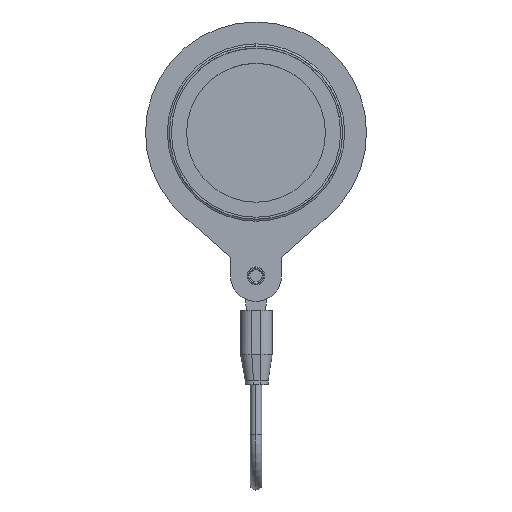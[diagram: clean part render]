
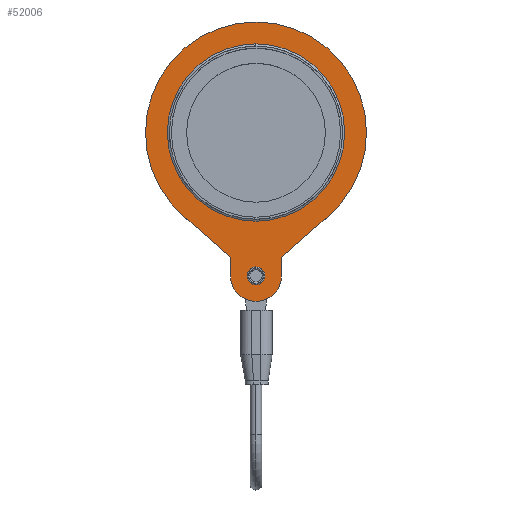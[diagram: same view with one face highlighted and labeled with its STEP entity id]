
A CAD part, top view. The second image highlights one B-rep face of the part: STEP entity #52006.
In plain terms, the highlighted planar face has unit normal (0, 0, 1) as drawn and (0, 0, -1) by its records, which use the part's own axes.
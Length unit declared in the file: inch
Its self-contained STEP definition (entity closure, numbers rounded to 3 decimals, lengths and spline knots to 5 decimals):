
#1645 = DIRECTION ( 'NONE',  ( 1., 0., 0. ) ) ;
#2606 = CARTESIAN_POINT ( 'NONE',  ( 0.06102, -1.16142, -0.01378 ) ) ;
#4008 = ORIENTED_EDGE ( 'NONE', *, *, #23938, .F. ) ;
#4773 = CARTESIAN_POINT ( 'NONE',  ( -0.7185, 0., -0.01378 ) ) ;
#6326 = VERTEX_POINT ( 'NONE', #4773 ) ;
#6380 = CARTESIAN_POINT ( 'NONE',  ( 0., -1.16142, -0.01378 ) ) ;
#6749 = CIRCLE ( 'NONE', #54961, 0.89567 ) ;
#8165 = DIRECTION ( 'NONE',  ( 1., 0., 0. ) ) ;
#8436 = CARTESIAN_POINT ( 'NONE',  ( 0., -1.16142, -0.01378 ) ) ;
#8928 = VERTEX_POINT ( 'NONE', #56661 ) ;
#8954 = VERTEX_POINT ( 'NONE', #26486 ) ;
#11923 = FACE_OUTER_BOUND ( 'NONE', #13826, .T. ) ;
#13392 = VERTEX_POINT ( 'NONE', #60057 ) ;
#13826 = EDGE_LOOP ( 'NONE', ( #4008, #37448, #47544, #56180, #15834, #18620, #36946, #36252 ) ) ;
#13850 = EDGE_CURVE ( 'NONE', #59840, #66315, #6749, .T. ) ;
#13901 = VECTOR ( 'NONE', #45784, 39.37008 ) ;
#14133 = DIRECTION ( 'NONE',  ( 0., 0., 1. ) ) ;
#14151 = VECTOR ( 'NONE', #38891, 39.37008 ) ;
#14472 = CARTESIAN_POINT ( 'NONE',  ( 0., 0., -0.01378 ) ) ;
#14669 = EDGE_CURVE ( 'NONE', #13392, #27325, #23750, .T. ) ;
#15776 = ORIENTED_EDGE ( 'NONE', *, *, #20397, .T. ) ;
#15834 = ORIENTED_EDGE ( 'NONE', *, *, #33174, .F. ) ;
#16261 = FACE_BOUND ( 'NONE', #37331, .T. ) ;
#16741 = CARTESIAN_POINT ( 'NONE',  ( 0.20669, -1.01181, -0.01378 ) ) ;
#16777 = EDGE_CURVE ( 'NONE', #6326, #33106, #44525, .T. ) ;
#16847 = EDGE_CURVE ( 'NONE', #27325, #8928, #28095, .T. ) ;
#18620 = ORIENTED_EDGE ( 'NONE', *, *, #51674, .F. ) ;
#19537 = DIRECTION ( 'NONE',  ( 0., 0., 1. ) ) ;
#20344 = AXIS2_PLACEMENT_3D ( 'NONE', #47170, #32754, #58218 ) ;
#20397 = EDGE_CURVE ( 'NONE', #8954, #49557, #26875, .T. ) ;
#22796 = CARTESIAN_POINT ( 'NONE',  ( -0.20669, -1.01181, -0.01378 ) ) ;
#23598 = AXIS2_PLACEMENT_3D ( 'NONE', #32345, #43043, #52798 ) ;
#23750 = LINE ( 'NONE', #38516, #56039 ) ;
#23938 = EDGE_CURVE ( 'NONE', #46847, #13392, #32526, .T. ) ;
#25890 = CARTESIAN_POINT ( 'NONE',  ( -0.5923, -0.67186, -0.01378 ) ) ;
#26028 = CIRCLE ( 'NONE', #52816, 0.89567 ) ;
#26408 = EDGE_CURVE ( 'NONE', #66315, #35524, #28815, .T. ) ;
#26486 = CARTESIAN_POINT ( 'NONE',  ( -0.06102, -1.16142, -0.01378 ) ) ;
#26875 = CIRCLE ( 'NONE', #64367, 0.06102 ) ;
#27027 = CARTESIAN_POINT ( 'NONE',  ( 0.89567, 0., -0.01378 ) ) ;
#27135 = CARTESIAN_POINT ( 'NONE',  ( 0., -1.16142, -0.01378 ) ) ;
#27312 = FACE_BOUND ( 'NONE', #61827, .T. ) ;
#27325 = VERTEX_POINT ( 'NONE', #16741 ) ;
#28095 = LINE ( 'NONE', #33447, #30620 ) ;
#28815 = LINE ( 'NONE', #22796, #14151 ) ;
#28872 = DIRECTION ( 'NONE',  ( 0., 0., 1. ) ) ;
#29441 = DIRECTION ( 'NONE',  ( 1., 0., 0. ) ) ;
#30620 = VECTOR ( 'NONE', #55805, 39.37008 ) ;
#31695 = PLANE ( 'NONE',  #23598 ) ;
#31840 = DIRECTION ( 'NONE',  ( 0., 0., 1. ) ) ;
#32345 = CARTESIAN_POINT ( 'NONE',  ( 0., -1.16142, -0.01378 ) ) ;
#32453 = CARTESIAN_POINT ( 'NONE',  ( 0.7185, 0., -0.01378 ) ) ;
#32526 = CIRCLE ( 'NONE', #55030, 0.20669 ) ;
#32544 = CARTESIAN_POINT ( 'NONE',  ( -0.20669, -1.16142, -0.01378 ) ) ;
#32754 = DIRECTION ( 'NONE',  ( 0., 0., 1. ) ) ;
#33106 = VERTEX_POINT ( 'NONE', #32453 ) ;
#33174 = EDGE_CURVE ( 'NONE', #47458, #59840, #26028, .T. ) ;
#33447 = CARTESIAN_POINT ( 'NONE',  ( 0.20669, -1.01181, -0.01378 ) ) ;
#34468 = DIRECTION ( 'NONE',  ( 0., 1., 0. ) ) ;
#35524 = VERTEX_POINT ( 'NONE', #42947 ) ;
#36252 = ORIENTED_EDGE ( 'NONE', *, *, #14669, .F. ) ;
#36946 = ORIENTED_EDGE ( 'NONE', *, *, #16847, .F. ) ;
#37153 = CARTESIAN_POINT ( 'NONE',  ( 0., 0., -0.01378 ) ) ;
#37331 = EDGE_LOOP ( 'NONE', ( #60146, #63726 ) ) ;
#37448 = ORIENTED_EDGE ( 'NONE', *, *, #53546, .F. ) ;
#38149 = DIRECTION ( 'NONE',  ( 1., 0., 0. ) ) ;
#38476 = DIRECTION ( 'NONE',  ( 0., 0., 1. ) ) ;
#38516 = CARTESIAN_POINT ( 'NONE',  ( 0.20669, -1.01181, -0.01378 ) ) ;
#38891 = DIRECTION ( 'NONE',  ( 0.75, -0.661, 0. ) ) ;
#39190 = CARTESIAN_POINT ( 'NONE',  ( 0., 0., -0.01378 ) ) ;
#40122 = LINE ( 'NONE', #45128, #13901 ) ;
#40689 = CIRCLE ( 'NONE', #20344, 0.89567 ) ;
#42042 = CARTESIAN_POINT ( 'NONE',  ( -0.89567, 0., -0.01378 ) ) ;
#42443 = ORIENTED_EDGE ( 'NONE', *, *, #44916, .T. ) ;
#42947 = CARTESIAN_POINT ( 'NONE',  ( -0.20669, -1.01181, -0.01378 ) ) ;
#43043 = DIRECTION ( 'NONE',  ( 0., 0., 1. ) ) ;
#44525 = CIRCLE ( 'NONE', #62726, 0.7185 ) ;
#44916 = EDGE_CURVE ( 'NONE', #49557, #8954, #56443, .T. ) ;
#45128 = CARTESIAN_POINT ( 'NONE',  ( -0.20669, -1.01181, -0.01378 ) ) ;
#45784 = DIRECTION ( 'NONE',  ( 0., -1., 0. ) ) ;
#46778 = AXIS2_PLACEMENT_3D ( 'NONE', #8436, #28872, #64424 ) ;
#46847 = VERTEX_POINT ( 'NONE', #32544 ) ;
#47170 = CARTESIAN_POINT ( 'NONE',  ( 0., 0., -0.01378 ) ) ;
#47458 = VERTEX_POINT ( 'NONE', #27027 ) ;
#47544 = ORIENTED_EDGE ( 'NONE', *, *, #26408, .F. ) ;
#49557 = VERTEX_POINT ( 'NONE', #2606 ) ;
#51674 = EDGE_CURVE ( 'NONE', #8928, #47458, #40689, .T. ) ;
#52006 = ADVANCED_FACE ( 'NONE', ( #27312, #16261, #11923 ), #31695, .F. ) ;
#52798 = DIRECTION ( 'NONE',  ( 1., 0., 0. ) ) ;
#52816 = AXIS2_PLACEMENT_3D ( 'NONE', #37153, #38476, #38149 ) ;
#52964 = DIRECTION ( 'NONE',  ( 0., 0., 1. ) ) ;
#53417 = CARTESIAN_POINT ( 'NONE',  ( 0., 0., -0.01378 ) ) ;
#53546 = EDGE_CURVE ( 'NONE', #35524, #46847, #40122, .T. ) ;
#54961 = AXIS2_PLACEMENT_3D ( 'NONE', #53417, #19537, #8165 ) ;
#55030 = AXIS2_PLACEMENT_3D ( 'NONE', #27135, #31840, #1645 ) ;
#55216 = AXIS2_PLACEMENT_3D ( 'NONE', #39190, #59630, #29441 ) ;
#55346 = DIRECTION ( 'NONE',  ( 1., 0., 0. ) ) ;
#55805 = DIRECTION ( 'NONE',  ( 0.75, 0.661, 0. ) ) ;
#56039 = VECTOR ( 'NONE', #34468, 39.37008 ) ;
#56180 = ORIENTED_EDGE ( 'NONE', *, *, #13850, .F. ) ;
#56443 = CIRCLE ( 'NONE', #46778, 0.06102 ) ;
#56661 = CARTESIAN_POINT ( 'NONE',  ( 0.5923, -0.67186, -0.01378 ) ) ;
#56982 = DIRECTION ( 'NONE',  ( 1., 0., 0. ) ) ;
#58218 = DIRECTION ( 'NONE',  ( 1., 0., 0. ) ) ;
#59630 = DIRECTION ( 'NONE',  ( 0., 0., 1. ) ) ;
#59840 = VERTEX_POINT ( 'NONE', #42042 ) ;
#60057 = CARTESIAN_POINT ( 'NONE',  ( 0.20669, -1.16142, -0.01378 ) ) ;
#60146 = ORIENTED_EDGE ( 'NONE', *, *, #61970, .T. ) ;
#61827 = EDGE_LOOP ( 'NONE', ( #42443, #15776 ) ) ;
#61970 = EDGE_CURVE ( 'NONE', #33106, #6326, #65920, .T. ) ;
#62726 = AXIS2_PLACEMENT_3D ( 'NONE', #14472, #14133, #55346 ) ;
#63726 = ORIENTED_EDGE ( 'NONE', *, *, #16777, .T. ) ;
#64367 = AXIS2_PLACEMENT_3D ( 'NONE', #6380, #52964, #56982 ) ;
#64424 = DIRECTION ( 'NONE',  ( 1., 0., 0. ) ) ;
#65920 = CIRCLE ( 'NONE', #55216, 0.7185 ) ;
#66315 = VERTEX_POINT ( 'NONE', #25890 ) ;
